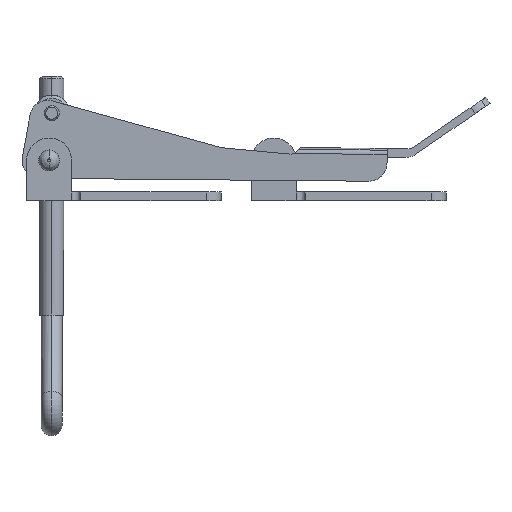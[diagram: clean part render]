
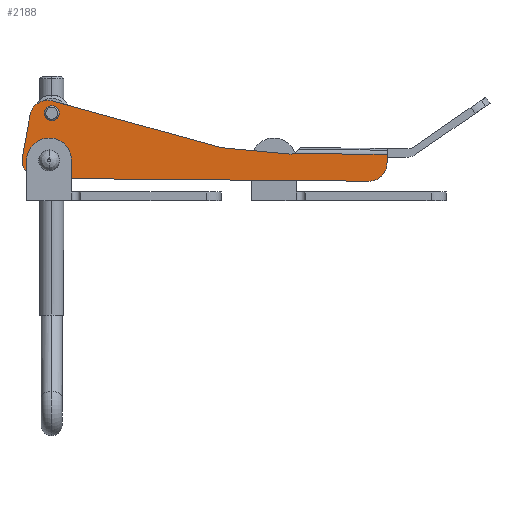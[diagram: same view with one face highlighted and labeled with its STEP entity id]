
A CAD part, front view. The second image highlights one B-rep face of the part: STEP entity #2188.
In plain terms, the highlighted planar face has unit normal (0, -1, 0) as drawn and (0, 0, 1) by its records, which use the part's own axes.
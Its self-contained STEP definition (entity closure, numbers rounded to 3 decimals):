
#1166=CARTESIAN_POINT('',(-59.09,11.357,30.5));
#1167=VERTEX_POINT('',#1166);
#1176=CARTESIAN_POINT('',(-54.313,12.093,30.5));
#1177=VERTEX_POINT('',#1176);
#1178=CARTESIAN_POINT('',(-55.866,6.297,30.5));
#1179=DIRECTION('',(0.0,0.0,-1.));
#1180=DIRECTION('',(-0.537,0.843,0.0));
#1181=AXIS2_PLACEMENT_3D('',#1178,#1179,#1180);
#1182=CIRCLE('',#1181,6.0);
#1183=EDGE_CURVE('',#1167,#1177,#1182,.T.);
#1208=CARTESIAN_POINT('',(-62.946,-11.644,30.5));
#1209=VERTEX_POINT('',#1208);
#1218=CARTESIAN_POINT('',(-64.258,-6.745,30.5));
#1219=VERTEX_POINT('',#1218);
#1220=CARTESIAN_POINT('',(-58.349,-7.787,30.5));
#1221=DIRECTION('',(0.0,0.0,-1.0));
#1222=DIRECTION('',(-0.766,-0.643,0.0));
#1223=AXIS2_PLACEMENT_3D('',#1220,#1221,#1222);
#1224=CIRCLE('',#1223,6.0);
#1225=EDGE_CURVE('',#1209,#1219,#1224,.T.);
#1418=CARTESIAN_POINT('',(55.743,-12.03,30.5));
#1419=VERTEX_POINT('',#1418);
#1428=CARTESIAN_POINT('',(51.5,-13.787,30.5));
#1429=VERTEX_POINT('',#1428);
#1430=CARTESIAN_POINT('',(51.5,-7.787,30.5));
#1431=DIRECTION('',(0.0,0.0,-1.));
#1432=DIRECTION('',(0.707,-0.707,0.0));
#1433=AXIS2_PLACEMENT_3D('',#1430,#1431,#1432);
#1434=CIRCLE('',#1433,6.0);
#1435=EDGE_CURVE('',#1419,#1429,#1434,.T.);
#1628=CARTESIAN_POINT('',(-52.048,8.014,30.5));
#1629=VERTEX_POINT('',#1628);
#1638=CARTESIAN_POINT('',(-57.048,8.014,30.5));
#1639=VERTEX_POINT('',#1638);
#1640=CARTESIAN_POINT('',(-54.548,8.014,30.5));
#1641=DIRECTION('',(0.0,0.0,-1.0));
#1642=DIRECTION('',(1.0,0.0,0.0));
#1643=AXIS2_PLACEMENT_3D('',#1640,#1641,#1642);
#1644=CIRCLE('',#1643,2.5);
#1645=EDGE_CURVE('',#1639,#1629,#1644,.T.);
#1712=CARTESIAN_POINT('',(-52.803,-7.787,30.5));
#1713=VERTEX_POINT('',#1712);
#1722=CARTESIAN_POINT('',(-57.803,-7.787,30.5));
#1723=VERTEX_POINT('',#1722);
#1724=CARTESIAN_POINT('',(-55.303,-7.787,30.5));
#1725=DIRECTION('',(0.0,0.0,-1.0));
#1726=DIRECTION('',(1.0,0.0,0.0));
#1727=AXIS2_PLACEMENT_3D('',#1724,#1725,#1726);
#1728=CIRCLE('',#1727,2.5);
#1729=EDGE_CURVE('',#1723,#1713,#1728,.T.);
#1986=CARTESIAN_POINT('',(26.293,-4.787,30.5));
#1987=VERTEX_POINT('',#1986);
#1997=CARTESIAN_POINT('',(57.5,-4.787,30.5));
#1998=VERTEX_POINT('',#1997);
#1999=CARTESIAN_POINT('',(26.293,-4.787,30.5));
#2000=DIRECTION('',(1.0,0.0,0.0));
#2001=VECTOR('',#2000,31.207);
#2002=LINE('',#1999,#2001);
#2003=EDGE_CURVE('',#1987,#1998,#2002,.T.);
#2054=CARTESIAN_POINT('',(57.5,-7.787,30.5));
#2055=VERTEX_POINT('',#2054);
#2056=CARTESIAN_POINT('',(57.5,-7.787,30.5));
#2057=DIRECTION('',(0.0,1.0,0.0));
#2058=VECTOR('',#2057,3.);
#2059=LINE('',#2056,#2058);
#2060=EDGE_CURVE('',#2055,#1998,#2059,.T.);
#2096=CARTESIAN_POINT('',(-2.794,-5.67,30.5));
#2097=DIRECTION('',(0.0,0.0,1.0));
#2098=DIRECTION('',(1.0,0.0,0.0));
#2099=AXIS2_PLACEMENT_3D('',#2096,#2097,#2098);
#2100=PLANE('',#2099);
#2101=ORIENTED_EDGE('',*,*,#2003,.F.);
#2102=CARTESIAN_POINT('',(25.022,-4.955,30.5));
#2103=VERTEX_POINT('',#2102);
#2104=CARTESIAN_POINT('',(25.273,-1.966,30.5));
#2105=DIRECTION('',(0.0,0.0,1.0));
#2106=DIRECTION('',(0.384,-0.923,0.0));
#2107=AXIS2_PLACEMENT_3D('',#2104,#2105,#2106);
#2108=CIRCLE('',#2107,3.);
#2109=EDGE_CURVE('',#2103,#1987,#2108,.T.);
#2110=ORIENTED_EDGE('',*,*,#2109,.F.);
#2111=CARTESIAN_POINT('',(2.147,-3.036,30.5));
#2112=VERTEX_POINT('',#2111);
#2113=CARTESIAN_POINT('',(2.147,-3.036,30.5));
#2114=DIRECTION('',(0.996,-0.084,0.0));
#2115=VECTOR('',#2114,22.955);
#2116=LINE('',#2113,#2115);
#2117=EDGE_CURVE('',#2112,#2103,#2116,.T.);
#2118=ORIENTED_EDGE('',*,*,#2117,.F.);
#2119=CARTESIAN_POINT('',(-54.313,12.093,30.5));
#2120=DIRECTION('',(0.966,-0.259,0.0));
#2121=VECTOR('',#2120,58.452);
#2122=LINE('',#2119,#2121);
#2123=EDGE_CURVE('',#1177,#2112,#2122,.T.);
#2124=ORIENTED_EDGE('',*,*,#2123,.F.);
#2125=ORIENTED_EDGE('',*,*,#1183,.F.);
#2126=CARTESIAN_POINT('',(-61.775,7.339,30.5));
#2127=VERTEX_POINT('',#2126);
#2128=CARTESIAN_POINT('',(-55.866,6.297,30.5));
#2129=DIRECTION('',(0.0,0.0,-1.));
#2130=DIRECTION('',(-0.537,0.843,0.0));
#2131=AXIS2_PLACEMENT_3D('',#2128,#2129,#2130);
#2132=CIRCLE('',#2131,6.0);
#2133=EDGE_CURVE('',#2127,#1167,#2132,.T.);
#2134=ORIENTED_EDGE('',*,*,#2133,.F.);
#2135=CARTESIAN_POINT('',(-64.258,-6.745,30.5));
#2136=DIRECTION('',(0.174,0.985,0.0));
#2137=VECTOR('',#2136,14.302);
#2138=LINE('',#2135,#2137);
#2139=EDGE_CURVE('',#1219,#2127,#2138,.T.);
#2140=ORIENTED_EDGE('',*,*,#2139,.F.);
#2141=ORIENTED_EDGE('',*,*,#1225,.F.);
#2142=CARTESIAN_POINT('',(-58.349,-13.787,30.5));
#2143=VERTEX_POINT('',#2142);
#2144=CARTESIAN_POINT('',(-58.349,-7.787,30.5));
#2145=DIRECTION('',(0.0,0.0,-1.0));
#2146=DIRECTION('',(-0.766,-0.643,0.0));
#2147=AXIS2_PLACEMENT_3D('',#2144,#2145,#2146);
#2148=CIRCLE('',#2147,6.0);
#2149=EDGE_CURVE('',#2143,#1209,#2148,.T.);
#2150=ORIENTED_EDGE('',*,*,#2149,.F.);
#2151=CARTESIAN_POINT('',(51.5,-13.787,30.5));
#2152=DIRECTION('',(-1.0,0.0,0.0));
#2153=VECTOR('',#2152,109.849);
#2154=LINE('',#2151,#2153);
#2155=EDGE_CURVE('',#1429,#2143,#2154,.T.);
#2156=ORIENTED_EDGE('',*,*,#2155,.F.);
#2157=ORIENTED_EDGE('',*,*,#1435,.F.);
#2158=CARTESIAN_POINT('',(51.5,-7.787,30.5));
#2159=DIRECTION('',(0.0,0.0,-1.));
#2160=DIRECTION('',(0.707,-0.707,0.0));
#2161=AXIS2_PLACEMENT_3D('',#2158,#2159,#2160);
#2162=CIRCLE('',#2161,6.0);
#2163=EDGE_CURVE('',#2055,#1419,#2162,.T.);
#2164=ORIENTED_EDGE('',*,*,#2163,.F.);
#2165=ORIENTED_EDGE('',*,*,#2060,.T.);
#2166=EDGE_LOOP('',(#2101,#2110,#2118,#2124,#2125,#2134,#2140,#2141,#2150,#2156,#2157,#2164,#2165));
#2167=FACE_OUTER_BOUND('',#2166,.T.);
#2168=ORIENTED_EDGE('',*,*,#1645,.T.);
#2169=CARTESIAN_POINT('',(-54.548,8.014,30.5));
#2170=DIRECTION('',(0.0,0.0,-1.0));
#2171=DIRECTION('',(1.0,0.0,0.0));
#2172=AXIS2_PLACEMENT_3D('',#2169,#2170,#2171);
#2173=CIRCLE('',#2172,2.5);
#2174=EDGE_CURVE('',#1629,#1639,#2173,.T.);
#2175=ORIENTED_EDGE('',*,*,#2174,.T.);
#2176=EDGE_LOOP('',(#2168,#2175));
#2177=FACE_BOUND('',#2176,.T.);
#2178=ORIENTED_EDGE('',*,*,#1729,.T.);
#2179=CARTESIAN_POINT('',(-55.303,-7.787,30.5));
#2180=DIRECTION('',(0.0,0.0,-1.0));
#2181=DIRECTION('',(1.0,0.0,0.0));
#2182=AXIS2_PLACEMENT_3D('',#2179,#2180,#2181);
#2183=CIRCLE('',#2182,2.5);
#2184=EDGE_CURVE('',#1713,#1723,#2183,.T.);
#2185=ORIENTED_EDGE('',*,*,#2184,.T.);
#2186=EDGE_LOOP('',(#2178,#2185));
#2187=FACE_BOUND('',#2186,.T.);
#2188=ADVANCED_FACE('',(#2167,#2177,#2187),#2100,.T.);
